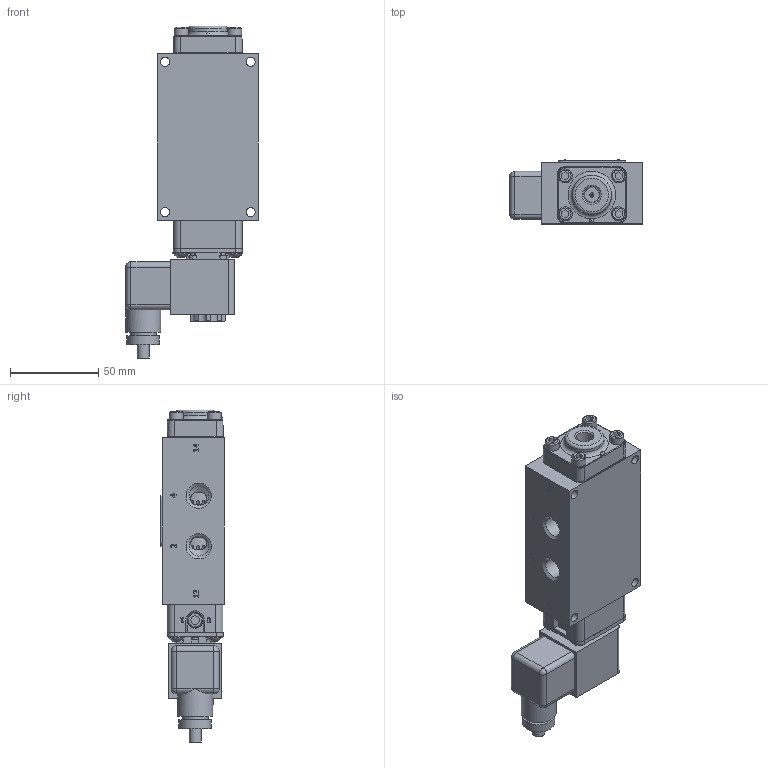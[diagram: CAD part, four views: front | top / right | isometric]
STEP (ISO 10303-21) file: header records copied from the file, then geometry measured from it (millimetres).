
FILE_DESCRIPTION(/* description */ (''),/* implementation_level */ '2;1');
FILE_NAME(/* name */ 'D:\Website Files\stp\Valves\Standard\ESR\ESR2T.stp',/* time_stamp */ '2015-04-25T20:28:54-04:00',/* author */ ('RMcKenna'),/* organization */ (''),/* preprocessor_version */ 'ST-DEVELOPER v15.6',/* originating_system */ 'Autodesk Inventor 2015',/* authorisation */ '');
FILE_SCHEMA (('AUTOMOTIVE_DESIGN { 1 0 10303 214 3 1 1 }'));
Products named in the file (1): Part49
Bounding box: 75.09 x 36.27 x 187.79 mm (x, y, z)
Volume: 248704.1 mm3; surface area: 75206.9 mm2
Topology: 2 solids, 37 shells, 1680 faces, 4073 edges, 2589 vertices
Faces by surface type: plane 754, cylinder 403, cone 277, torus 120, bspline 115, sphere 11
Full cylindrical faces by diameter (mm): 1.016 x1, 1.3 x1, 1.397 x1, 1.5 x2, 2.007 x2, 2.032 x8, 2.07 x2, 2.261 x2, 2.35 x4, 2.362 x2, 2.381 x2, 2.778 x2, 2.8 x1, 2.819 x1, 3 x4, 3.048 x2, 3.175 x1, 3.4 x1, 3.683 x11, 3.912 x3, 4.191 x2, 4.305 x1, 4.394 x1, 4.826 x8, 4.953 x1, 5.15 x4, 5.156 x12, 5.5 x1, 6.553 x1, 6.731 x1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
Entity records: 52191 total; most frequent: CARTESIAN_POINT 13401, DIRECTION 7549, ORIENTED_EDGE 7334, EDGE_CURVE 3665, AXIS2_PLACEMENT_3D 2882, VERTEX_POINT 2468, EDGE_LOOP 2147, LINE 1785
